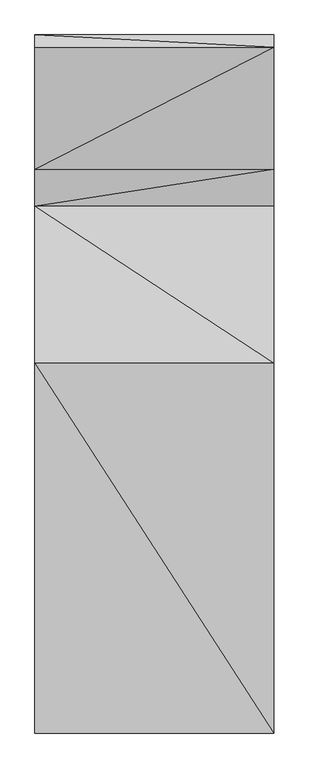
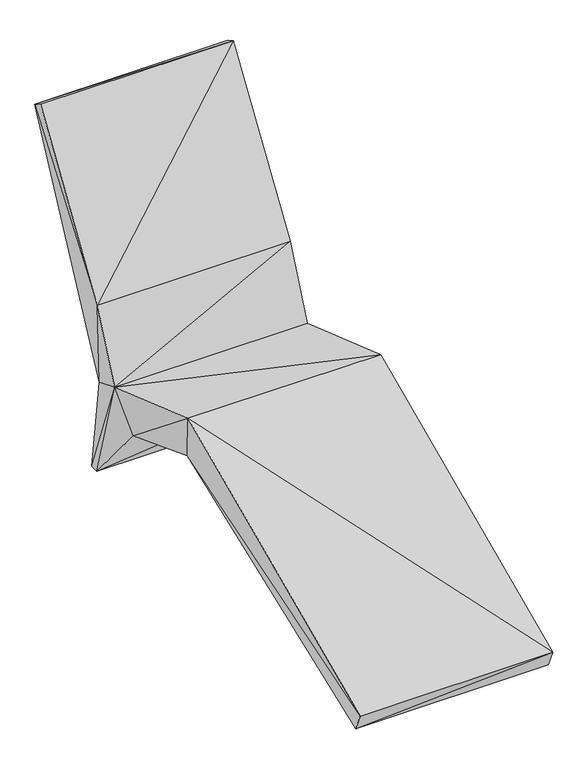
"""IFC4 building model written with IfcOpenShell, lengths in millimetres: geographic element geometry, Enscape AssetDefinition - Tumbona 17 : Enscape AssetDefinition - Tumbona 17."""

from ifc_helpers import new_model, si_unit, origin, place, context, project, spatial, faceted_brep, source, transform, mapped, element, save


def geographic_element_292c5166(model_context):
    return source(origin(), model_context, "Body", "Brep", [
        faceted_brep([(329.9679756, -916.7109728, 60.775999), (-330.031991, 104.9909964, 519.9249983), (-330.031991, -916.7109728, 60.775999), (329.9679756, 104.9909964, 519.9249983), (-330.031991, 108.1799939, 383.6909831), (-330.031991, 539.6779776, 369.4530129), (-330.031991, 428.4529686, 260.9789968), (-330.031991, -890.2869821, -0.152), (329.9679756, -890.2869821, -0.152), (329.9679756, 108.1799939, 383.6909831), (329.9679756, 539.6779776, 369.4530129), (329.9679756, 428.4529686, 260.9789968), (-330.031991, 646.5039849, -0.152), (329.9679756, 646.5039849, -0.152), (329.9679756, 642.0439482, 604.3209434), (329.9679756, 630.2030087, 333.160013), (329.9679756, 676.9099832, -0.152), (-330.031991, 676.9099832, -0.152), (-330.031991, 630.2030087, 333.160013), (-330.031991, 1013.1390095, 1107.3269844), (329.9679756, 1013.1390095, 1107.3269844), (-330.031991, 642.0439482, 604.3209434), (329.9679756, 979.0549874, 1127.0929575), (-330.031991, 979.0549874, 1127.0929575)], [[[0, 1, 2]], [[1, 0, 3]], [[4, 2, 1]], [[3, 5, 1]], [[6, 1, 5]], [[1, 6, 4]], [[2, 4, 7]], [[7, 0, 2]], [[8, 3, 0]], [[0, 7, 8]], [[3, 8, 9]], [[5, 3, 10]], [[9, 10, 3]], [[7, 9, 8]], [[9, 7, 4]], [[6, 9, 4]], [[9, 6, 11]], [[12, 11, 6]], [[6, 5, 12]], [[10, 9, 11]], [[11, 12, 13]], [[10, 11, 13]], [[14, 5, 10]], [[15, 10, 16]], [[10, 15, 14]], [[10, 13, 16]], [[12, 16, 13]], [[17, 12, 5]], [[16, 12, 17]], [[16, 18, 15]], [[18, 16, 17]], [[15, 19, 20]], [[19, 15, 18]], [[14, 15, 20]], [[17, 5, 18]], [[18, 5, 21]], [[18, 21, 19]], [[22, 19, 23]], [[19, 22, 20]], [[19, 21, 23]], [[14, 20, 22]], [[21, 22, 23]], [[22, 21, 14]], [[5, 14, 21]]]),
    ])


if __name__ == "__main__":
    model = new_model("IFC4")
    model_context = context("Model", 3, world=origin())
    ifc_project = project(units=[si_unit("LENGTHUNIT", "METRE", prefix="MILLI")], contexts=[model_context])
    site = spatial("IfcSite", under=ifc_project)
    building = spatial("IfcBuilding", under=site)
    placement = place(None, origin())
    geographic_element_shape = geographic_element_292c5166(model_context)
    element("IfcGeographicElement", 1, ObjectType="Enscape AssetDefinition - Tumbona 17 : Enscape AssetDefinition - Tumbona 17", at=placement, inside=building, context=model_context, shape_type="MappedRepresentation", body=[
        mapped(geographic_element_shape, transform((0.0, 0.0, 0.0), x_axis=(1.0, 0.0, 0.0), y_axis=(0.0, 1.0, 0.0), z_axis=(0.0, 0.0, 1.0))),
    ])
    save(model, "model.ifc")
